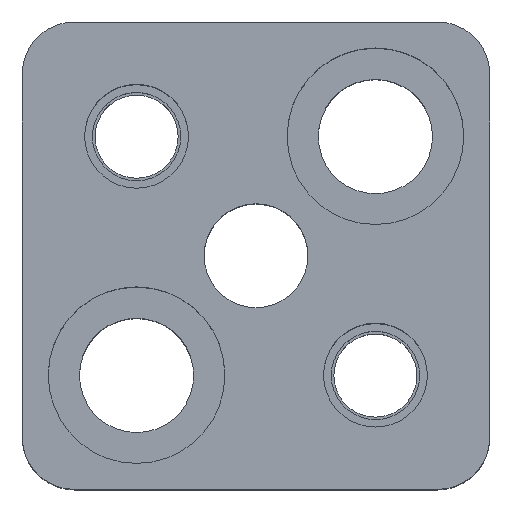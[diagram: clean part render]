
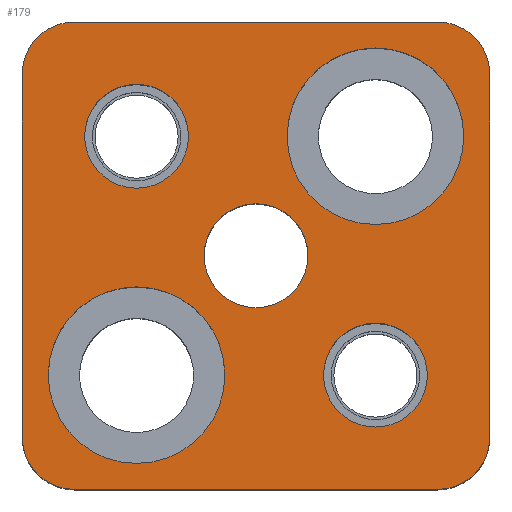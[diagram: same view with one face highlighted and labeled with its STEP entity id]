
A CAD part, top view. The second image highlights one B-rep face of the part: STEP entity #179.
In plain terms, the highlighted planar face has unit normal (0, 0, 1).
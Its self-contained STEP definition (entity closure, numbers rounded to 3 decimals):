
#111=FACE_BOUND('',#314,.T.);
#112=FACE_BOUND('',#315,.T.);
#113=FACE_BOUND('',#316,.T.);
#114=FACE_BOUND('',#317,.T.);
#115=FACE_BOUND('',#318,.T.);
#116=FACE_BOUND('',#319,.T.);
#140=PLANE('',#1098);
#179=ADVANCED_FACE('',(#111,#112,#113,#114,#115,#116),#140,.T.);
#314=EDGE_LOOP('',(#527,#528,#529,#530,#531,#532,#533,#534));
#315=EDGE_LOOP('',(#535,#536));
#316=EDGE_LOOP('',(#537,#538));
#317=EDGE_LOOP('',(#539,#540));
#318=EDGE_LOOP('',(#541,#542));
#319=EDGE_LOOP('',(#543,#544));
#377=CIRCLE('',#1062,5.);
#379=CIRCLE('',#1065,5.);
#381=CIRCLE('',#1069,5.);
#383=CIRCLE('',#1072,5.);
#393=CIRCLE('',#1088,5.);
#394=CIRCLE('',#1089,5.);
#395=CIRCLE('',#1090,5.);
#396=CIRCLE('',#1091,5.);
#397=CIRCLE('',#1092,8.5);
#398=CIRCLE('',#1093,8.5);
#399=CIRCLE('',#1094,8.5);
#400=CIRCLE('',#1095,8.5);
#401=CIRCLE('',#1096,5.);
#402=CIRCLE('',#1097,5.);
#527=ORIENTED_EDGE('',*,*,#838,.T.);
#528=ORIENTED_EDGE('',*,*,#839,.T.);
#529=ORIENTED_EDGE('',*,*,#840,.T.);
#530=ORIENTED_EDGE('',*,*,#841,.T.);
#531=ORIENTED_EDGE('',*,*,#842,.T.);
#532=ORIENTED_EDGE('',*,*,#843,.T.);
#533=ORIENTED_EDGE('',*,*,#844,.T.);
#534=ORIENTED_EDGE('',*,*,#845,.T.);
#535=ORIENTED_EDGE('',*,*,#846,.F.);
#536=ORIENTED_EDGE('',*,*,#847,.F.);
#537=ORIENTED_EDGE('',*,*,#848,.F.);
#538=ORIENTED_EDGE('',*,*,#849,.F.);
#539=ORIENTED_EDGE('',*,*,#824,.F.);
#540=ORIENTED_EDGE('',*,*,#820,.F.);
#541=ORIENTED_EDGE('',*,*,#818,.F.);
#542=ORIENTED_EDGE('',*,*,#814,.F.);
#543=ORIENTED_EDGE('',*,*,#850,.T.);
#544=ORIENTED_EDGE('',*,*,#851,.T.);
#715=VERTEX_POINT('',#1546);
#716=VERTEX_POINT('',#1547);
#719=VERTEX_POINT('',#1559);
#720=VERTEX_POINT('',#1560);
#731=VERTEX_POINT('',#1596);
#732=VERTEX_POINT('',#1597);
#733=VERTEX_POINT('',#1599);
#734=VERTEX_POINT('',#1601);
#735=VERTEX_POINT('',#1603);
#736=VERTEX_POINT('',#1605);
#737=VERTEX_POINT('',#1607);
#738=VERTEX_POINT('',#1609);
#739=VERTEX_POINT('',#1612);
#740=VERTEX_POINT('',#1613);
#741=VERTEX_POINT('',#1616);
#742=VERTEX_POINT('',#1617);
#743=VERTEX_POINT('',#1620);
#744=VERTEX_POINT('',#1621);
#814=EDGE_CURVE('',#715,#716,#377,.T.);
#818=EDGE_CURVE('',#716,#715,#379,.T.);
#820=EDGE_CURVE('',#719,#720,#381,.T.);
#824=EDGE_CURVE('',#720,#719,#383,.T.);
#838=EDGE_CURVE('',#731,#732,#393,.T.);
#839=EDGE_CURVE('',#732,#733,#931,.T.);
#840=EDGE_CURVE('',#733,#734,#394,.T.);
#841=EDGE_CURVE('',#734,#735,#932,.T.);
#842=EDGE_CURVE('',#735,#736,#395,.T.);
#843=EDGE_CURVE('',#736,#737,#933,.T.);
#844=EDGE_CURVE('',#737,#738,#396,.T.);
#845=EDGE_CURVE('',#738,#731,#934,.T.);
#846=EDGE_CURVE('',#739,#740,#397,.T.);
#847=EDGE_CURVE('',#740,#739,#398,.T.);
#848=EDGE_CURVE('',#741,#742,#399,.T.);
#849=EDGE_CURVE('',#742,#741,#400,.T.);
#850=EDGE_CURVE('',#743,#744,#401,.T.);
#851=EDGE_CURVE('',#744,#743,#402,.T.);
#931=LINE('',#1598,#992);
#932=LINE('',#1602,#993);
#933=LINE('',#1606,#994);
#934=LINE('',#1610,#995);
#992=VECTOR('',#1306,1.);
#993=VECTOR('',#1309,1.);
#994=VECTOR('',#1312,1.);
#995=VECTOR('',#1315,1.);
#1062=AXIS2_PLACEMENT_3D('',#1545,#1244,#1245);
#1065=AXIS2_PLACEMENT_3D('',#1554,#1252,#1253);
#1069=AXIS2_PLACEMENT_3D('',#1558,#1260,#1261);
#1072=AXIS2_PLACEMENT_3D('',#1567,#1268,#1269);
#1088=AXIS2_PLACEMENT_3D('',#1595,#1304,#1305);
#1089=AXIS2_PLACEMENT_3D('',#1600,#1307,#1308);
#1090=AXIS2_PLACEMENT_3D('',#1604,#1310,#1311);
#1091=AXIS2_PLACEMENT_3D('',#1608,#1313,#1314);
#1092=AXIS2_PLACEMENT_3D('',#1611,#1316,#1317);
#1093=AXIS2_PLACEMENT_3D('',#1614,#1318,#1319);
#1094=AXIS2_PLACEMENT_3D('',#1615,#1320,#1321);
#1095=AXIS2_PLACEMENT_3D('',#1618,#1322,#1323);
#1096=AXIS2_PLACEMENT_3D('',#1619,#1324,#1325);
#1097=AXIS2_PLACEMENT_3D('',#1622,#1326,#1327);
#1098=AXIS2_PLACEMENT_3D('',#1623,#1328,#1329);
#1244=DIRECTION('',(0.,0.,1.));
#1245=DIRECTION('',(-1.,0.,0.));
#1252=DIRECTION('',(0.,0.,1.));
#1253=DIRECTION('',(1.,0.,0.));
#1260=DIRECTION('',(0.,0.,1.));
#1261=DIRECTION('',(-1.,0.,0.));
#1268=DIRECTION('',(0.,0.,1.));
#1269=DIRECTION('',(1.,0.,0.));
#1304=DIRECTION('',(0.,0.,1.));
#1305=DIRECTION('',(-0.707,0.707,0.));
#1306=DIRECTION('',(0.,1.,0.));
#1307=DIRECTION('',(0.,0.,1.));
#1308=DIRECTION('',(-0.707,-0.707,0.));
#1309=DIRECTION('',(-1.,0.,0.));
#1310=DIRECTION('',(0.,0.,1.));
#1311=DIRECTION('',(0.707,-0.707,0.));
#1312=DIRECTION('',(0.,-1.,0.));
#1313=DIRECTION('',(0.,0.,1.));
#1314=DIRECTION('',(0.707,0.707,0.));
#1315=DIRECTION('',(1.,0.,0.));
#1316=DIRECTION('',(0.,0.,1.));
#1317=DIRECTION('',(1.,0.,0.));
#1318=DIRECTION('',(0.,0.,1.));
#1319=DIRECTION('',(-1.,0.,0.));
#1320=DIRECTION('',(0.,0.,1.));
#1321=DIRECTION('',(1.,0.,0.));
#1322=DIRECTION('',(0.,0.,1.));
#1323=DIRECTION('',(-1.,0.,0.));
#1324=DIRECTION('',(0.,0.,-1.));
#1325=DIRECTION('',(-1.,0.,0.));
#1326=DIRECTION('',(0.,0.,-1.));
#1327=DIRECTION('',(1.,0.,0.));
#1328=DIRECTION('',(0.,0.,1.));
#1329=DIRECTION('',(-1.,0.,0.));
#1545=CARTESIAN_POINT('',(11.5,-11.5,35.));
#1546=CARTESIAN_POINT('',(11.5,-16.5,35.));
#1547=CARTESIAN_POINT('',(11.5,-6.5,35.));
#1554=CARTESIAN_POINT('',(11.5,-11.5,35.));
#1558=CARTESIAN_POINT('',(-11.5,11.5,35.));
#1559=CARTESIAN_POINT('',(-11.5,6.5,35.));
#1560=CARTESIAN_POINT('',(-11.5,16.5,35.));
#1567=CARTESIAN_POINT('',(-11.5,11.5,35.));
#1595=CARTESIAN_POINT('',(17.5,-17.5,35.));
#1596=CARTESIAN_POINT('',(17.5,-22.5,35.));
#1597=CARTESIAN_POINT('',(22.5,-17.5,35.));
#1598=CARTESIAN_POINT('',(22.5,17.5,35.));
#1599=CARTESIAN_POINT('',(22.5,17.5,35.));
#1600=CARTESIAN_POINT('',(17.5,17.5,35.));
#1601=CARTESIAN_POINT('',(17.5,22.5,35.));
#1602=CARTESIAN_POINT('',(-17.5,22.5,35.));
#1603=CARTESIAN_POINT('',(-17.5,22.5,35.));
#1604=CARTESIAN_POINT('',(-17.5,17.5,35.));
#1605=CARTESIAN_POINT('',(-22.5,17.5,35.));
#1606=CARTESIAN_POINT('',(-22.5,17.5,35.));
#1607=CARTESIAN_POINT('',(-22.5,-17.5,35.));
#1608=CARTESIAN_POINT('',(-17.5,-17.5,35.));
#1609=CARTESIAN_POINT('',(-17.5,-22.5,35.));
#1610=CARTESIAN_POINT('',(-17.5,-22.5,35.));
#1611=CARTESIAN_POINT('',(11.5,11.5,35.));
#1612=CARTESIAN_POINT('',(11.5,20.,35.));
#1613=CARTESIAN_POINT('',(11.5,3.,35.));
#1614=CARTESIAN_POINT('',(11.5,11.5,35.));
#1615=CARTESIAN_POINT('',(-11.5,-11.5,35.));
#1616=CARTESIAN_POINT('',(-11.5,-3.,35.));
#1617=CARTESIAN_POINT('',(-11.5,-20.,35.));
#1618=CARTESIAN_POINT('',(-11.5,-11.5,35.));
#1619=CARTESIAN_POINT('',(0.,0.,35.));
#1620=CARTESIAN_POINT('',(0.,5.,35.));
#1621=CARTESIAN_POINT('',(0.,-5.,35.));
#1622=CARTESIAN_POINT('',(0.,0.,35.));
#1623=CARTESIAN_POINT('',(17.5,-22.5,35.));
